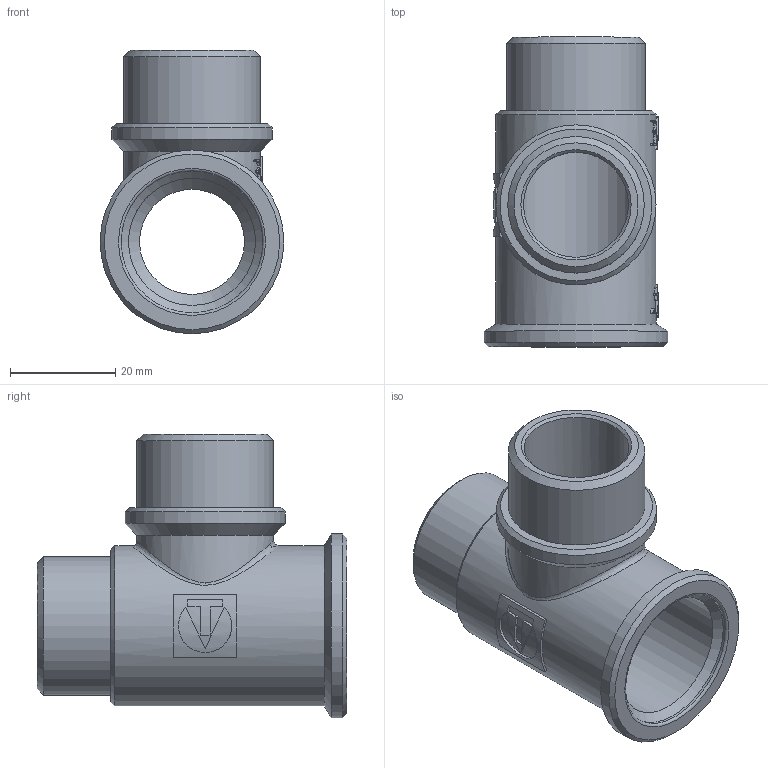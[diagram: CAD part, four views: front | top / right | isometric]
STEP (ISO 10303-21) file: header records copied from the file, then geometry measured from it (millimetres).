
FILE_DESCRIPTION(('STEP AP203'), '1');
FILE_NAME('ÂÐ.752249.006 - VTr.133.N.0005 - Ôèò. ðåçüá. òðîé', '2024-07-16T08:50:08', ('Boss'), (''), 'C3D Converter', 'C3D Toolkit', '');
FILE_SCHEMA(('CONFIG_CONTROL_DESIGN'));
Length unit declared in the file: millimetre
Products named in the file (1): ВР.752249.006
Bounding box: 35 x 59 x 54 mm (x, y, z)
Volume: 21211.8 mm3; surface area: 13963.8 mm2
Topology: 1 solids, 1 shells, 373 faces, 1040 edges, 689 vertices
Faces by surface type: extrusion 207, plane 124, cylinder 29, cone 11, bspline 1, torus 1
Full cylindrical faces by diameter (mm): 20 x2, 24.2 x1, 26 x2, 26.4 x1, 27 x1, 30.5 x2, 35 x1
Entity records: 16941 total; most frequent: CARTESIAN_POINT 8500, ORIENTED_EDGE 2030, DIRECTION 1120, EDGE_CURVE 1015, VERTEX_POINT 688, B_SPLINE_CURVE_WITH_KNOTS 624, VECTOR 594, EDGE_LOOP 421
